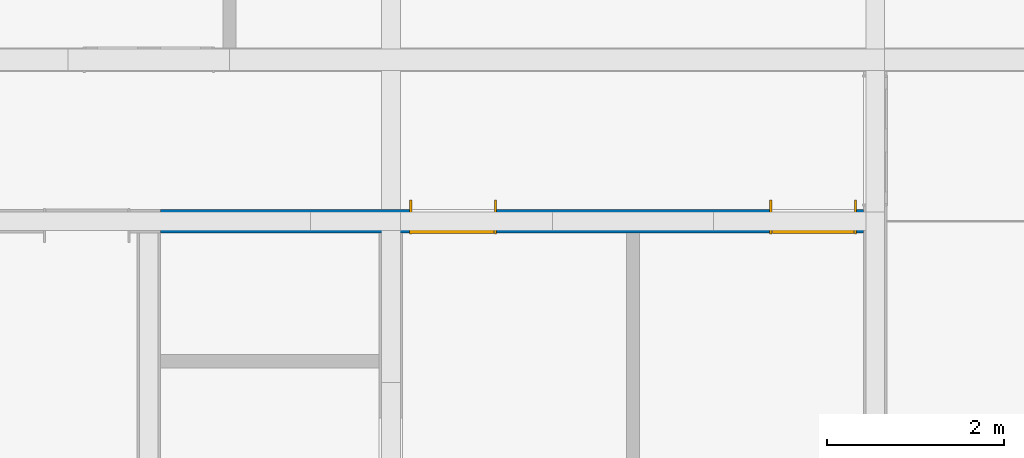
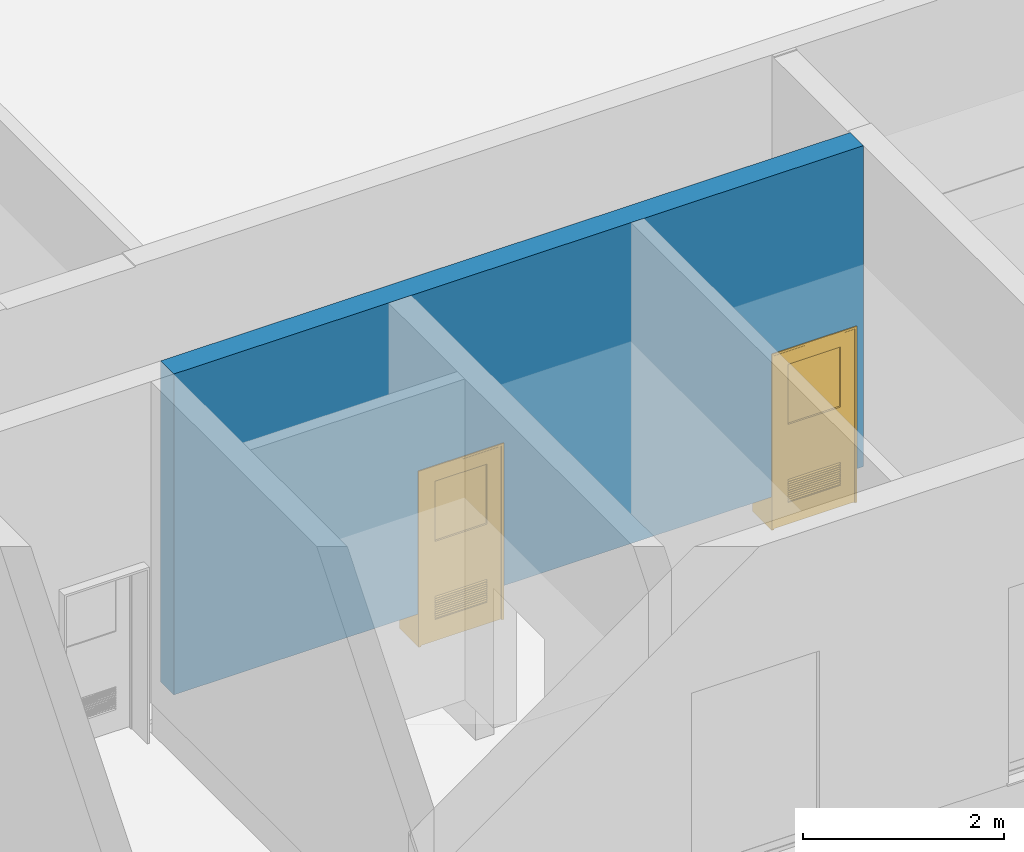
# One storey, part 16 of 22: 2 doors, 1 wall, 4 openings.
"""IFC4X3 building model written with IfcOpenShell, lengths in millimetres."""

from ifc_helpers import new_model, entity, si_unit, converted_unit, derived_unit, direction, frame, frame_2d, origin, place, context, subcontext, project, spatial, rectangle, extrude, faceted_brep, source, transform, mapped, material, layer, layer_set, constituent, constituent_set, type_object, type_shapes, element, fill, save


model = new_model("IFC4X3")

# Units and contexts
model_context = context("Model", 3, precision=0.01, world=origin(), true_north=direction((6.12303176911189e-17, 1.0)))
body_context = subcontext(model_context, "Body", "Model", "MODEL_VIEW")
ifc_project = project(units=[si_unit("LENGTHUNIT", "METRE", prefix="MILLI"), si_unit("AREAUNIT", "SQUARE_METRE"), si_unit("VOLUMEUNIT", "CUBIC_METRE"), converted_unit("PLANEANGLEUNIT", "DEGREE", entity("IfcPlaneAngleMeasure", 0.0174532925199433), si_unit("PLANEANGLEUNIT", "RADIAN"), dimensions=[0, 0, 0, 0, 0, 0, 0]), si_unit("MASSUNIT", "GRAM", prefix="KILO"), derived_unit("MASSDENSITYUNIT", [(si_unit("MASSUNIT", "GRAM", prefix="KILO"), 1), (si_unit("LENGTHUNIT", "METRE"), -3)]), derived_unit("IONCONCENTRATIONUNIT", [(si_unit("MASSUNIT", "GRAM", prefix="KILO"), 1), (si_unit("LENGTHUNIT", "METRE"), -3)]), derived_unit("MOMENTOFINERTIAUNIT", [(si_unit("LENGTHUNIT", "METRE"), 4)]), si_unit("TIMEUNIT", "SECOND"), si_unit("FREQUENCYUNIT", "HERTZ"), si_unit("THERMODYNAMICTEMPERATUREUNIT", "DEGREE_CELSIUS"), derived_unit("THERMALTRANSMITTANCEUNIT", [(si_unit("MASSUNIT", "GRAM", prefix="KILO"), 1), (si_unit("THERMODYNAMICTEMPERATUREUNIT", "KELVIN"), -1), (si_unit("TIMEUNIT", "SECOND"), -3)]), derived_unit("THERMALCONDUCTANCEUNIT", [(si_unit("MASSUNIT", "GRAM", prefix="KILO"), 1), (si_unit("THERMODYNAMICTEMPERATUREUNIT", "KELVIN"), -1), (si_unit("TIMEUNIT", "SECOND"), -3), (si_unit("LENGTHUNIT", "METRE"), 1)]), derived_unit("VOLUMETRICFLOWRATEUNIT", [(si_unit("LENGTHUNIT", "METRE", prefix="DECI"), 3), (si_unit("TIMEUNIT", "SECOND"), -1)]), derived_unit("MASSFLOWRATEUNIT", [(si_unit("MASSUNIT", "GRAM", prefix="KILO"), 1), (si_unit("TIMEUNIT", "SECOND"), -1)]), derived_unit("ROTATIONALFREQUENCYUNIT", [(si_unit("TIMEUNIT", "SECOND"), -1)]), si_unit("ELECTRICCURRENTUNIT", "AMPERE"), si_unit("ELECTRICVOLTAGEUNIT", "VOLT"), si_unit("POWERUNIT", "WATT"), si_unit("FORCEUNIT", "NEWTON", prefix="KILO"), si_unit("ILLUMINANCEUNIT", "LUX"), si_unit("LUMINOUSFLUXUNIT", "LUMEN"), si_unit("LUMINOUSINTENSITYUNIT", "CANDELA"), si_unit("ENERGYUNIT", "JOULE"), derived_unit("USERDEFINED", [(si_unit("MASSUNIT", "GRAM", prefix="KILO"), -1), (si_unit("LENGTHUNIT", "METRE"), -2), (si_unit("TIMEUNIT", "SECOND"), 3), (si_unit("LUMINOUSFLUXUNIT", "LUMEN"), 1)]), derived_unit("USERDEFINED", [(si_unit("MASSUNIT", "GRAM", prefix="KILO"), 1), (si_unit("TIMEUNIT", "SECOND"), -3), (si_unit("LENGTHUNIT", "METRE"), 3), (si_unit("ELECTRICCURRENTUNIT", "AMPERE"), -2)]), derived_unit("SOUNDPOWERUNIT", [(si_unit("MASSUNIT", "GRAM", prefix="KILO"), 1), (si_unit("TIMEUNIT", "SECOND"), -3), (si_unit("LENGTHUNIT", "METRE"), 2)]), derived_unit("SOUNDPRESSUREUNIT", [(si_unit("MASSUNIT", "GRAM", prefix="KILO"), 1), (si_unit("LENGTHUNIT", "METRE"), -1), (si_unit("TIMEUNIT", "SECOND"), -2)]), derived_unit("LINEARVELOCITYUNIT", [(si_unit("LENGTHUNIT", "METRE"), 1), (si_unit("TIMEUNIT", "SECOND"), -1)]), si_unit("PRESSUREUNIT", "PASCAL"), derived_unit("USERDEFINED", [(si_unit("MASSUNIT", "GRAM", prefix="KILO"), 1), (si_unit("LENGTHUNIT", "METRE"), -2), (si_unit("TIMEUNIT", "SECOND"), -2)]), derived_unit("LINEARFORCEUNIT", [(si_unit("MASSUNIT", "GRAM", prefix="KILO"), 1), (si_unit("TIMEUNIT", "SECOND"), -2)]), derived_unit("PLANARFORCEUNIT", [(si_unit("MASSUNIT", "GRAM", prefix="KILO"), 1), (si_unit("LENGTHUNIT", "METRE"), -1), (si_unit("TIMEUNIT", "SECOND"), -2)]), derived_unit("SPECIFICHEATCAPACITYUNIT", [(si_unit("THERMODYNAMICTEMPERATUREUNIT", "KELVIN"), -1), (si_unit("LENGTHUNIT", "METRE"), 2), (si_unit("TIMEUNIT", "SECOND"), -2)]), derived_unit("HEATFLUXDENSITYUNIT", [(si_unit("MASSUNIT", "GRAM", prefix="KILO"), 1), (si_unit("TIMEUNIT", "SECOND"), -3)]), derived_unit("HEATINGVALUEUNIT", [(si_unit("LENGTHUNIT", "METRE"), 2), (si_unit("TIMEUNIT", "SECOND"), -2)]), derived_unit("VAPORPERMEABILITYUNIT", [(si_unit("LENGTHUNIT", "METRE"), -1), (si_unit("TIMEUNIT", "SECOND"), 1)]), derived_unit("DYNAMICVISCOSITYUNIT", [(si_unit("MASSUNIT", "GRAM", prefix="KILO"), 1), (si_unit("TIMEUNIT", "SECOND"), -1), (si_unit("LENGTHUNIT", "METRE"), -1)]), derived_unit("THERMALEXPANSIONCOEFFICIENTUNIT", [(si_unit("THERMODYNAMICTEMPERATUREUNIT", "KELVIN"), -1)]), derived_unit("MODULUSOFELASTICITYUNIT", [(si_unit("MASSUNIT", "GRAM", prefix="KILO"), 1), (si_unit("LENGTHUNIT", "METRE"), -1), (si_unit("TIMEUNIT", "SECOND"), -2)]), derived_unit("ISOTHERMALMOISTURECAPACITYUNIT", [(si_unit("MASSUNIT", "GRAM", prefix="KILO"), -1), (si_unit("LENGTHUNIT", "METRE"), 3)]), derived_unit("MOISTUREDIFFUSIVITYUNIT", [(si_unit("TIMEUNIT", "SECOND"), -1), (si_unit("LENGTHUNIT", "METRE"), 2)]), derived_unit("AREADENSITYUNIT", [(si_unit("MASSUNIT", "GRAM", prefix="KILO"), 1), (si_unit("LENGTHUNIT", "METRE"), 2)]), derived_unit("MASSPERLENGTHUNIT", [(si_unit("MASSUNIT", "GRAM", prefix="KILO"), 1), (si_unit("LENGTHUNIT", "METRE"), -1)]), derived_unit("THERMALRESISTANCEUNIT", [(si_unit("MASSUNIT", "GRAM", prefix="KILO"), -1), (si_unit("TIMEUNIT", "SECOND"), 3), (si_unit("THERMODYNAMICTEMPERATUREUNIT", "KELVIN"), 1)]), derived_unit("ACCELERATIONUNIT", [(si_unit("LENGTHUNIT", "METRE"), 1), (si_unit("TIMEUNIT", "SECOND"), -2)]), derived_unit("ANGULARVELOCITYUNIT", [(si_unit("TIMEUNIT", "SECOND"), -1), (si_unit("PLANEANGLEUNIT", "RADIAN"), 1)]), derived_unit("LINEARSTIFFNESSUNIT", [(si_unit("MASSUNIT", "GRAM", prefix="KILO"), 1), (si_unit("TIMEUNIT", "SECOND"), -2)]), derived_unit("WARPINGCONSTANTUNIT", [(si_unit("LENGTHUNIT", "METRE"), 6)]), derived_unit("LINEARMOMENTUNIT", [(si_unit("MASSUNIT", "GRAM", prefix="KILO"), 1), (si_unit("LENGTHUNIT", "METRE"), 1), (si_unit("TIMEUNIT", "SECOND"), -2)]), derived_unit("TORQUEUNIT", [(si_unit("MASSUNIT", "GRAM", prefix="KILO"), 1), (si_unit("LENGTHUNIT", "METRE"), 2), (si_unit("TIMEUNIT", "SECOND"), -2)])], contexts=[model_context])

# Site, building, storey
site_placement = place(None, origin())
site = spatial("IfcSite", under=ifc_project, at=site_placement, Name="Default", CompositionType="ELEMENT")
building_placement = place(site_placement, origin())
building = spatial("IfcBuilding", under=site, at=building_placement, Name="事務所ビル", CompositionType="ELEMENT")
storey_placement = place(building_placement, origin())
storey = spatial("IfcBuildingStorey", under=building, at=storey_placement, Name="1FL", CompositionType="ELEMENT", Elevation=0.0)

# Wall, openings, doors
ifc_material_1 = material(Name="せっこうボード", Category="一般")
ifc_layer_1 = layer(ifc_material_1, 15.0, Name="せっこうボード", Category="一般")
ifc_material_2 = material(Name="合板", Category="一般")
ifc_layer_2 = layer(ifc_material_2, 12.0, Name="合板", Category="一般")
ifc_material_3 = material(Name="天然木材", Category="一般")
ifc_layer_3 = layer(ifc_material_3, 210.0, Name="天然木材", Category="一般")
ifc_layer_4 = layer(ifc_material_2, 12.0, Name="合板", Category="一般")
ifc_layer_5 = layer(ifc_material_1, 15.0, Name="せっこうボード", Category="一般")
ifc_layer_set = layer_set([ifc_layer_1, ifc_layer_2, ifc_layer_3, ifc_layer_4, ifc_layer_5], Name="標準壁:GB-R15_構造用合板12_木210_構造用合板12_GB-R15")
wall_type = type_object("IfcWallType", Name="標準壁:GB-R15_構造用合板12_木210_構造用合板12_GB-R15", PredefinedType="STANDARD", material=ifc_layer_set)
wall_placement = place(storey_placement, frame((30162.0, 5460.0, 400.0)))
wall = element("IfcWall", 1, at=wall_placement, inside=storey, type_object=wall_type, material=ifc_layer_set, Name="標準壁:GB-R15_構造用合板12_木210_構造用合板12_GB-R15", ObjectType="標準壁:GB-R15_構造用合板12_木210_構造用合板12_GB-R15", PredefinedType="NOTDEFINED", context=body_context, shape_type="SweptSolid", body=[
    extrude(rectangle(XDim=7925.99999999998, YDim=264.000000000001, at=frame_2d((3962.99999999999, -2.55795384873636e-13), x_axis=(-1.0, 0.0))), origin(), (0.0, 0.0, 1.0), 3900.0),
])
opening_1_placement = place(wall_placement, frame((-30162.0, -5460.0, 3900.0)))
element("IfcOpeningElement", 2, at=opening_1_placement, cuts=wall, Name="標準壁:GB-R15_構造用合板12_木210_構造用合板12_GB-R15", PredefinedType="OPENING", context=body_context, shape_type="SweptSolid", body=[
    extrude(rectangle(XDim=2140.0, YDim=979.999999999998, at=frame_2d((2.18847162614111e-12, 0.0), x_axis=(0.0, 1.0))), frame((33460.0, 4068.0, 1070.0), z_axis=(0.0, 1.0, 0.0), x_axis=(1.0, 0.0, 0.0)), (0.0, 0.0, 1.0), 3048.0),
])
opening_2_placement = place(wall_placement, frame((-30162.0, -5460.0, 3900.0)))
element("IfcOpeningElement", 3, at=opening_2_placement, cuts=wall, Name="標準壁:GB-R15_構造用合板12_木210_構造用合板12_GB-R15", PredefinedType="OPENING", context=body_context, shape_type="SweptSolid", body=[
    extrude(rectangle(XDim=2140.0, YDim=979.999999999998, at=frame_2d((0.0, -2.18847162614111e-12), x_axis=(1.0, 0.0))), frame((37520.0, 4068.0, 1070.0), z_axis=(0.0, 1.0, 0.0), x_axis=(0.0, 0.0, -1.0)), (0.0, 0.0, 1.0), 3048.0),
])
opening_3_placement = place(wall_placement, frame((3788.0, 132.0, -400.0)))
opening_3 = element("IfcOpeningElement", 4, at=opening_3_placement, cuts=wall, Name="鋼製_一般枠_片開き 1:鋼製_一般枠_片開き 1:1", PredefinedType="OPENING", context=body_context, shape_type="SweptSolid", body=[
    extrude(rectangle(XDim=2140.0, YDim=979.999999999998, at=frame_2d((1070.0, 489.999999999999), x_axis=(-1.0, 0.0))), frame((0.0, 0.0, 0.0), z_axis=(0.0, -1.0, 0.0), x_axis=(0.0, 0.0, 1.0)), (0.0, 0.0, 1.0), 264.0),
])
opening_4_placement = place(wall_placement, frame((7848.0, 132.0, -400.0)))
opening_4 = element("IfcOpeningElement", 5, at=opening_4_placement, cuts=wall, Name="鋼製_一般枠_片開き 1:鋼製_一般枠_片開き 1:1", PredefinedType="OPENING", context=body_context, shape_type="SweptSolid", body=[
    extrude(rectangle(XDim=2140.0, YDim=979.999999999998, at=frame_2d((1070.0, 489.999999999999), x_axis=(-1.0, 0.0))), frame((0.0, 0.0, 0.0), z_axis=(0.0, -1.0, 0.0), x_axis=(0.0, 0.0, 1.0)), (0.0, 0.0, 1.0), 264.0),
])
ifc_material_4 = material(Name="金属 - アルミニウム", Category="未設定")
ifc_constituent_1 = constituent(ifc_material_4, Name="金属 - アルミニウム", Category="未設定")
ifc_material_5 = material(Name="塗装 - 白", Category="未設定")
ifc_constituent_2 = constituent(ifc_material_5, Name="塗装 - 白", Category="未設定")
ifc_material_6 = material(Name="ガラス", Category="ガラス")
ifc_constituent_3 = constituent(ifc_material_6, Name="ガラス", Category="ガラス")
ifc_constituent_set_1 = constituent_set(constituents=[ifc_constituent_1, ifc_constituent_2, ifc_constituent_3])
ifc_constituent_4 = constituent(ifc_material_4, Name="金属 - アルミニウム", Category="未設定")
ifc_constituent_5 = constituent(ifc_material_5, Name="パネル", Category="未設定")
ifc_constituent_6 = constituent(ifc_material_6, Name="ガラス", Category="ガラス")
ifc_constituent_7 = constituent(ifc_material_4, Name="フレーム/マリオン", Category="未設定")
ifc_constituent_set_2 = constituent_set(constituents=[ifc_constituent_4, ifc_constituent_5, ifc_constituent_6, ifc_constituent_7])
door_type_1 = type_object("IfcDoorType", Name="鋼製_一般枠_片開き 1:鋼製_一般枠_片開き 1", OperationType="SINGLE_SWING_LEFT", ParameterTakesPrecedence=False, PredefinedType="DOOR", material=ifc_constituent_set_2)
shared_shape_1 = source(origin(), body_context, "Body", "Brep", [
    faceted_brep([(790.0, 269.0, 493.333333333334), (790.0, 269.0, 498.333333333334), (790.0, 239.0, 513.333333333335), (790.0, 229.0, 508.333333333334), (790.0, 229.0, 503.333333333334), (790.0, 239.0, 508.333333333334), (190.0, 269.0, 493.333333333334), (190.0, 239.0, 508.333333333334), (190.0, 229.0, 503.333333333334), (190.0, 229.0, 508.333333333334), (190.0, 239.0, 513.333333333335), (190.0, 269.0, 498.333333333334)], [[[0, 1, 2, 3, 4, 5]], [[6, 7, 8, 9, 10, 11]], [[5, 7, 6, 0]], [[4, 8, 7, 5]], [[3, 9, 8, 4]], [[2, 10, 9, 3]], [[1, 11, 10, 2]], [[0, 6, 11, 1]]]),
    faceted_brep([(790.0, 269.0, 466.666666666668), (790.0, 269.0, 471.666666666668), (790.0, 239.0, 486.666666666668), (790.0, 229.0, 481.666666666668), (790.0, 229.0, 476.666666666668), (790.0, 239.0, 481.666666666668), (190.0, 269.0, 466.666666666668), (190.0, 239.0, 481.666666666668), (190.0, 229.0, 476.666666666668), (190.0, 229.0, 481.666666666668), (190.0, 239.0, 486.666666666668), (190.0, 269.0, 471.666666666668)], [[[0, 1, 2, 3, 4, 5]], [[6, 7, 8, 9, 10, 11]], [[5, 7, 6, 0]], [[4, 8, 7, 5]], [[3, 9, 8, 4]], [[2, 10, 9, 3]], [[1, 11, 10, 2]], [[0, 6, 11, 1]]]),
    faceted_brep([(790.0, 269.0, 440.0), (790.0, 269.0, 445.0), (790.0, 239.0, 460.0), (790.0, 229.0, 455.0), (790.0, 229.0, 450.0), (790.0, 239.0, 455.0), (190.0, 269.0, 440.0), (190.0, 239.0, 455.0), (190.0, 229.0, 450.0), (190.0, 229.0, 455.0), (190.0, 239.0, 460.0), (190.0, 269.0, 445.0)], [[[0, 1, 2, 3, 4, 5]], [[6, 7, 8, 9, 10, 11]], [[5, 7, 6, 0]], [[4, 8, 7, 5]], [[3, 9, 8, 4]], [[2, 10, 9, 3]], [[1, 11, 10, 2]], [[0, 6, 11, 1]]]),
    faceted_brep([(790.0, 269.0, 413.333333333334), (790.0, 269.0, 418.333333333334), (790.0, 239.0, 433.333333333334), (790.0, 229.0, 428.333333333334), (790.0, 229.0, 423.333333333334), (790.0, 239.0, 428.333333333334), (190.0, 269.0, 413.333333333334), (190.0, 239.0, 428.333333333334), (190.0, 229.0, 423.333333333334), (190.0, 229.0, 428.333333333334), (190.0, 239.0, 433.333333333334), (190.0, 269.0, 418.333333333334)], [[[0, 1, 2, 3, 4, 5]], [[6, 7, 8, 9, 10, 11]], [[5, 7, 6, 0]], [[4, 8, 7, 5]], [[3, 9, 8, 4]], [[2, 10, 9, 3]], [[1, 11, 10, 2]], [[0, 6, 11, 1]]]),
    faceted_brep([(790.0, 269.0, 386.666666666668), (790.0, 269.0, 391.666666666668), (790.0, 239.0, 406.666666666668), (790.0, 229.0, 401.666666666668), (790.0, 229.0, 396.666666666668), (790.0, 239.0, 401.666666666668), (190.0, 269.0, 386.666666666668), (190.0, 239.0, 401.666666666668), (190.0, 229.0, 396.666666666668), (190.0, 229.0, 401.666666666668), (190.0, 239.0, 406.666666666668), (190.0, 269.0, 391.666666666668)], [[[0, 1, 2, 3, 4, 5]], [[6, 7, 8, 9, 10, 11]], [[5, 7, 6, 0]], [[4, 8, 7, 5]], [[3, 9, 8, 4]], [[2, 10, 9, 3]], [[1, 11, 10, 2]], [[0, 6, 11, 1]]]),
    faceted_brep([(790.0, 269.0, 360.0), (790.0, 269.0, 365.0), (790.0, 239.0, 380.0), (790.0, 229.0, 375.0), (790.0, 229.0, 370.0), (790.0, 239.0, 375.0), (190.0, 269.0, 360.0), (190.0, 239.0, 375.0), (190.0, 229.0, 370.0), (190.0, 229.0, 375.0), (190.0, 239.0, 380.0), (190.0, 269.0, 365.0)], [[[0, 1, 2, 3, 4, 5]], [[6, 7, 8, 9, 10, 11]], [[5, 7, 6, 0]], [[4, 8, 7, 5]], [[3, 9, 8, 4]], [[2, 10, 9, 3]], [[1, 11, 10, 2]], [[0, 6, 11, 1]]]),
    faceted_brep([(790.0, 269.0, 333.333333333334), (790.0, 269.0, 338.333333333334), (790.0, 239.0, 353.333333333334), (790.0, 229.0, 348.333333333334), (790.0, 229.0, 343.333333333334), (790.0, 239.0, 348.333333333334), (190.0, 269.0, 333.333333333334), (190.0, 239.0, 348.333333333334), (190.0, 229.0, 343.333333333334), (190.0, 229.0, 348.333333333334), (190.0, 239.0, 353.333333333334), (190.0, 269.0, 338.333333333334)], [[[0, 1, 2, 3, 4, 5]], [[6, 7, 8, 9, 10, 11]], [[5, 7, 6, 0]], [[4, 8, 7, 5]], [[3, 9, 8, 4]], [[2, 10, 9, 3]], [[1, 11, 10, 2]], [[0, 6, 11, 1]]]),
    faceted_brep([(790.0, 269.0, 306.666666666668), (790.0, 269.0, 311.666666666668), (790.0, 239.0, 326.666666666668), (790.0, 229.0, 321.666666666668), (790.0, 229.0, 316.666666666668), (790.0, 239.0, 321.666666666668), (190.0, 269.0, 306.666666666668), (190.0, 239.0, 321.666666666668), (190.0, 229.0, 316.666666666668), (190.0, 229.0, 321.666666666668), (190.0, 239.0, 326.666666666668), (190.0, 269.0, 311.666666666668)], [[[0, 1, 2, 3, 4, 5]], [[6, 7, 8, 9, 10, 11]], [[5, 7, 6, 0]], [[4, 8, 7, 5]], [[3, 9, 8, 4]], [[2, 10, 9, 3]], [[1, 11, 10, 2]], [[0, 6, 11, 1]]]),
    faceted_brep([(790.0, 269.0, 520.0), (790.0, 269.0, 525.0), (790.0, 239.0, 540.0), (790.0, 229.0, 535.0), (790.0, 229.0, 530.0), (790.0, 239.0, 535.0), (190.0, 269.0, 520.0), (190.0, 239.0, 535.0), (190.0, 229.0, 530.0), (190.0, 229.0, 535.0), (190.0, 239.0, 540.0), (190.0, 269.0, 525.0)], [[[0, 1, 2, 3, 4, 5]], [[6, 7, 8, 9, 10, 11]], [[5, 7, 6, 0]], [[4, 8, 7, 5]], [[3, 9, 8, 4]], [[2, 10, 9, 3]], [[1, 11, 10, 2]], [[0, 6, 11, 1]]]),
    faceted_brep([(790.0, 269.0, 280.0), (790.0, 269.0, 285.0), (790.0, 239.0, 300.0), (790.0, 229.0, 295.0), (790.0, 229.0, 290.0), (790.0, 239.0, 295.0), (190.0, 269.0, 280.0), (190.0, 239.0, 295.0), (190.0, 229.0, 290.0), (190.0, 229.0, 295.0), (190.0, 239.0, 300.0), (190.0, 269.0, 285.0)], [[[0, 1, 2, 3, 4, 5]], [[6, 7, 8, 9, 10, 11]], [[5, 7, 6, 0]], [[4, 8, 7, 5]], [[3, 9, 8, 4]], [[2, 10, 9, 3]], [[1, 11, 10, 2]], [[0, 6, 11, 1]]]),
    faceted_brep([(800.0, 269.0, 260.0), (180.0, 269.0, 260.0), (180.0, 269.0, 560.0), (800.0, 269.0, 560.0), (790.0, 269.0, 270.0), (790.0, 269.0, 550.0), (190.0, 269.0, 550.0), (190.0, 269.0, 270.0), (800.0, 229.0, 260.0), (800.0, 229.0, 560.0), (180.0, 229.0, 560.0), (180.0, 229.0, 260.0), (790.0, 229.0, 270.0), (190.0, 229.0, 270.0), (190.0, 229.0, 550.0), (790.0, 229.0, 550.0)], [[[0, 1, 2, 3], [4, 5, 6, 7]], [[8, 9, 10, 11], [12, 13, 14, 15]], [[3, 9, 8, 0]], [[2, 10, 9, 3]], [[1, 11, 10, 2]], [[0, 8, 11, 1]], [[7, 13, 12, 4]], [[6, 14, 13, 7]], [[5, 15, 14, 6]], [[4, 12, 15, 5]]]),
    faceted_brep([(800.0, 229.0, 1210.0), (800.0, 229.0, 1960.0), (180.0, 229.0, 1960.0), (180.0, 229.0, 1210.0), (790.0, 229.0, 1220.0), (190.0, 229.0, 1220.0), (190.0, 229.0, 1950.0), (790.0, 229.0, 1950.0), (800.0, 269.0, 1210.0), (180.0, 269.0, 1210.0), (180.0, 269.0, 1960.0), (800.0, 269.0, 1960.0), (790.0, 269.0, 1220.0), (790.0, 269.0, 1950.0), (190.0, 269.0, 1950.0), (190.0, 269.0, 1220.0)], [[[0, 1, 2, 3], [4, 5, 6, 7]], [[8, 9, 10, 11], [12, 13, 14, 15]], [[1, 0, 8, 11]], [[2, 1, 11, 10]], [[3, 2, 10, 9]], [[0, 3, 9, 8]], [[5, 4, 12, 15]], [[6, 5, 15, 14]], [[7, 6, 14, 13]], [[4, 7, 13, 12]]]),
    faceted_brep([(800.0, 244.0, 1210.0), (800.0, 244.0, 1960.0), (180.0, 244.0, 1960.0), (180.0, 244.0, 1210.0), (800.0, 249.0, 1210.0), (180.0, 249.0, 1210.0), (180.0, 249.0, 1960.0), (800.0, 249.0, 1960.0)], [[[0, 1, 2, 3]], [[4, 5, 6, 7]], [[1, 0, 4, 7]], [[2, 1, 7, 6]], [[3, 2, 6, 5]], [[0, 3, 5, 4]]]),
    faceted_brep([(950.0, 229.0, 10.0), (950.0, 229.0, 2110.0), (30.0, 229.0, 2110.0), (30.0, 229.0, 10.0), (800.0, 229.0, 260.0), (180.0, 229.0, 260.0), (180.0, 229.0, 560.0), (800.0, 229.0, 560.0), (800.0, 229.0, 1210.0), (180.0, 229.0, 1210.0), (180.0, 229.0, 1960.0), (800.0, 229.0, 1960.0), (950.0, 269.0, 10.0), (30.0, 269.0, 10.0), (30.0, 269.0, 2110.0), (950.0, 269.0, 2110.0), (800.0, 269.0, 260.0), (800.0, 269.0, 560.0), (180.0, 269.0, 560.0), (180.0, 269.0, 260.0), (800.0, 269.0, 1210.0), (800.0, 269.0, 1960.0), (180.0, 269.0, 1960.0), (180.0, 269.0, 1210.0)], [[[0, 1, 2, 3], [4, 5, 6, 7], [8, 9, 10, 11]], [[12, 13, 14, 15], [16, 17, 18, 19], [20, 21, 22, 23]], [[1, 0, 12, 15]], [[2, 1, 15, 14]], [[3, 2, 14, 13]], [[0, 3, 13, 12]], [[5, 4, 16, 19]], [[6, 5, 19, 18]], [[7, 6, 18, 17]], [[4, 7, 17, 16]], [[9, 8, 20, 23]], [[10, 9, 23, 22]], [[11, 10, 22, 21]], [[8, 11, 21, 20]]]),
    faceted_brep([(955.0, 274.0, 0.0), (980.0, 274.0, 0.0), (980.0, -110.0, 0.0), (955.0, -110.0, 0.0), (955.0, 194.0, 0.0), (940.0, 194.0, 0.0), (940.0, 224.0, 0.0), (955.0, 224.0, 0.0), (955.0, 274.0, 2115.0), (25.0, 274.0, 2115.0), (25.0, 274.0, 0.0), (0.0, 274.0, 0.0), (0.0, 274.0, 2140.0), (980.0, 274.0, 2140.0), (980.0, -110.0, 2140.0), (0.0, -110.0, 2140.0), (0.0, -110.0, 0.0), (25.0, -110.0, 0.0), (25.0, -110.0, 2115.0), (955.0, -110.0, 2115.0), (955.0, 194.0, 2115.0), (25.0, 194.0, 2115.0), (25.0, 194.0, 0.0), (40.0, 194.0, 0.0), (40.0, 194.0, 2100.0), (940.0, 194.0, 2100.0), (940.0, 224.0, 2100.0), (40.0, 224.0, 2100.0), (40.0, 224.0, 0.0), (25.0, 224.0, 0.0), (25.0, 224.0, 2115.0), (955.0, 224.0, 2115.0)], [[[0, 1, 2, 3, 4, 5, 6, 7]], [[1, 0, 8, 9, 10, 11, 12, 13]], [[2, 1, 13, 14]], [[3, 2, 14, 15, 16, 17, 18, 19]], [[4, 3, 19, 20]], [[5, 4, 20, 21, 22, 23, 24, 25]], [[6, 5, 25, 26]], [[7, 6, 26, 27, 28, 29, 30, 31]], [[0, 7, 31, 8]], [[14, 13, 12, 15]], [[20, 19, 18, 21]], [[26, 25, 24, 27]], [[8, 31, 30, 9]], [[10, 29, 28, 23, 22, 17, 16, 11]], [[15, 12, 11, 16]], [[21, 18, 17, 22]], [[27, 24, 23, 28]], [[9, 30, 29, 10]]]),
])
type_shapes(door_type_1, [shared_shape_1])
door_1_placement = place(opening_4_placement, frame((0.0, 0.0, 0.0), z_axis=(0.0, 0.0, 1.0), x_axis=(-1.0, 0.0, 0.0)))
door_1 = element("IfcDoor", 6, at=door_1_placement, inside=storey, type_object=door_type_1, material=ifc_constituent_set_1, Name="鋼製_一般枠_片開き 1:鋼製_一般枠_片開き 1", ObjectType="鋼製_一般枠_片開き 1:鋼製_一般枠_片開き 1", OperationType="SINGLE_SWING_LEFT", OverallHeight=2140.0, OverallWidth=979.999999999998, PredefinedType="DOOR", context=body_context, shape_type="MappedRepresentation", body=[
    mapped(shared_shape_1, transform((0.0, 0.0, 0.0), scale=1.0)),
])
fill(opening_4, door_1)
ifc_constituent_8 = constituent(ifc_material_4, Name="金属 - アルミニウム", Category="未設定")
ifc_constituent_9 = constituent(ifc_material_5, Name="塗装 - 白", Category="未設定")
ifc_constituent_10 = constituent(ifc_material_6, Name="ガラス", Category="ガラス")
ifc_constituent_set_3 = constituent_set(constituents=[ifc_constituent_8, ifc_constituent_9, ifc_constituent_10])
ifc_constituent_11 = constituent(ifc_material_4, Name="金属 - アルミニウム", Category="未設定")
ifc_constituent_12 = constituent(ifc_material_5, Name="パネル", Category="未設定")
ifc_constituent_13 = constituent(ifc_material_6, Name="ガラス", Category="ガラス")
ifc_constituent_14 = constituent(ifc_material_4, Name="フレーム/マリオン", Category="未設定")
ifc_constituent_set_4 = constituent_set(constituents=[ifc_constituent_11, ifc_constituent_12, ifc_constituent_13, ifc_constituent_14])
door_type_2 = type_object("IfcDoorType", Name="鋼製_一般枠_片開き 1:鋼製_一般枠_片開き 1", OperationType="SINGLE_SWING_RIGHT", ParameterTakesPrecedence=False, PredefinedType="DOOR", material=ifc_constituent_set_4)
shared_shape_2 = source(origin(), body_context, "Body", "Brep", [
    faceted_brep([(190.0, 269.0, 493.333333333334), (190.0, 239.0, 508.333333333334), (190.0, 229.0, 503.333333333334), (190.0, 229.0, 508.333333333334), (190.0, 239.0, 513.333333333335), (190.0, 269.0, 498.333333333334), (790.0, 269.0, 493.333333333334), (790.0, 269.0, 498.333333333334), (790.0, 239.0, 513.333333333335), (790.0, 229.0, 508.333333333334), (790.0, 229.0, 503.333333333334), (790.0, 239.0, 508.333333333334)], [[[0, 1, 2, 3, 4, 5]], [[6, 7, 8, 9, 10, 11]], [[1, 0, 6, 11]], [[2, 1, 11, 10]], [[3, 2, 10, 9]], [[4, 3, 9, 8]], [[5, 4, 8, 7]], [[0, 5, 7, 6]]]),
    faceted_brep([(190.0, 269.0, 466.666666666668), (190.0, 239.0, 481.666666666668), (190.0, 229.0, 476.666666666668), (190.0, 229.0, 481.666666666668), (190.0, 239.0, 486.666666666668), (190.0, 269.0, 471.666666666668), (790.0, 269.0, 466.666666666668), (790.0, 269.0, 471.666666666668), (790.0, 239.0, 486.666666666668), (790.0, 229.0, 481.666666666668), (790.0, 229.0, 476.666666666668), (790.0, 239.0, 481.666666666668)], [[[0, 1, 2, 3, 4, 5]], [[6, 7, 8, 9, 10, 11]], [[1, 0, 6, 11]], [[2, 1, 11, 10]], [[3, 2, 10, 9]], [[4, 3, 9, 8]], [[5, 4, 8, 7]], [[0, 5, 7, 6]]]),
    faceted_brep([(190.0, 269.0, 440.0), (190.0, 239.0, 455.0), (190.0, 229.0, 450.0), (190.0, 229.0, 455.0), (190.0, 239.0, 460.0), (190.0, 269.0, 445.0), (790.0, 269.0, 440.0), (790.0, 269.0, 445.0), (790.0, 239.0, 460.0), (790.0, 229.0, 455.0), (790.0, 229.0, 450.0), (790.0, 239.0, 455.0)], [[[0, 1, 2, 3, 4, 5]], [[6, 7, 8, 9, 10, 11]], [[1, 0, 6, 11]], [[2, 1, 11, 10]], [[3, 2, 10, 9]], [[4, 3, 9, 8]], [[5, 4, 8, 7]], [[0, 5, 7, 6]]]),
    faceted_brep([(190.0, 269.0, 413.333333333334), (190.0, 239.0, 428.333333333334), (190.0, 229.0, 423.333333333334), (190.0, 229.0, 428.333333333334), (190.0, 239.0, 433.333333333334), (190.0, 269.0, 418.333333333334), (790.0, 269.0, 413.333333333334), (790.0, 269.0, 418.333333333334), (790.0, 239.0, 433.333333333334), (790.0, 229.0, 428.333333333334), (790.0, 229.0, 423.333333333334), (790.0, 239.0, 428.333333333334)], [[[0, 1, 2, 3, 4, 5]], [[6, 7, 8, 9, 10, 11]], [[1, 0, 6, 11]], [[2, 1, 11, 10]], [[3, 2, 10, 9]], [[4, 3, 9, 8]], [[5, 4, 8, 7]], [[0, 5, 7, 6]]]),
    faceted_brep([(190.0, 269.0, 386.666666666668), (190.0, 239.0, 401.666666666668), (190.0, 229.0, 396.666666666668), (190.0, 229.0, 401.666666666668), (190.0, 239.0, 406.666666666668), (190.0, 269.0, 391.666666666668), (790.0, 269.0, 386.666666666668), (790.0, 269.0, 391.666666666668), (790.0, 239.0, 406.666666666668), (790.0, 229.0, 401.666666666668), (790.0, 229.0, 396.666666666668), (790.0, 239.0, 401.666666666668)], [[[0, 1, 2, 3, 4, 5]], [[6, 7, 8, 9, 10, 11]], [[1, 0, 6, 11]], [[2, 1, 11, 10]], [[3, 2, 10, 9]], [[4, 3, 9, 8]], [[5, 4, 8, 7]], [[0, 5, 7, 6]]]),
    faceted_brep([(190.0, 269.0, 360.0), (190.0, 239.0, 375.0), (190.0, 229.0, 370.0), (190.0, 229.0, 375.0), (190.0, 239.0, 380.0), (190.0, 269.0, 365.0), (790.0, 269.0, 360.0), (790.0, 269.0, 365.0), (790.0, 239.0, 380.0), (790.0, 229.0, 375.0), (790.0, 229.0, 370.0), (790.0, 239.0, 375.0)], [[[0, 1, 2, 3, 4, 5]], [[6, 7, 8, 9, 10, 11]], [[1, 0, 6, 11]], [[2, 1, 11, 10]], [[3, 2, 10, 9]], [[4, 3, 9, 8]], [[5, 4, 8, 7]], [[0, 5, 7, 6]]]),
    faceted_brep([(190.0, 269.0, 333.333333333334), (190.0, 239.0, 348.333333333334), (190.0, 229.0, 343.333333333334), (190.0, 229.0, 348.333333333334), (190.0, 239.0, 353.333333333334), (190.0, 269.0, 338.333333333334), (790.0, 269.0, 333.333333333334), (790.0, 269.0, 338.333333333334), (790.0, 239.0, 353.333333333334), (790.0, 229.0, 348.333333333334), (790.0, 229.0, 343.333333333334), (790.0, 239.0, 348.333333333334)], [[[0, 1, 2, 3, 4, 5]], [[6, 7, 8, 9, 10, 11]], [[1, 0, 6, 11]], [[2, 1, 11, 10]], [[3, 2, 10, 9]], [[4, 3, 9, 8]], [[5, 4, 8, 7]], [[0, 5, 7, 6]]]),
    faceted_brep([(190.0, 269.0, 306.666666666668), (190.0, 239.0, 321.666666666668), (190.0, 229.0, 316.666666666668), (190.0, 229.0, 321.666666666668), (190.0, 239.0, 326.666666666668), (190.0, 269.0, 311.666666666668), (790.0, 269.0, 306.666666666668), (790.0, 269.0, 311.666666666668), (790.0, 239.0, 326.666666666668), (790.0, 229.0, 321.666666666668), (790.0, 229.0, 316.666666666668), (790.0, 239.0, 321.666666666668)], [[[0, 1, 2, 3, 4, 5]], [[6, 7, 8, 9, 10, 11]], [[1, 0, 6, 11]], [[2, 1, 11, 10]], [[3, 2, 10, 9]], [[4, 3, 9, 8]], [[5, 4, 8, 7]], [[0, 5, 7, 6]]]),
    faceted_brep([(190.0, 269.0, 520.0), (190.0, 239.0, 535.0), (190.0, 229.0, 530.0), (190.0, 229.0, 535.0), (190.0, 239.0, 540.0), (190.0, 269.0, 525.0), (790.0, 269.0, 520.0), (790.0, 269.0, 525.0), (790.0, 239.0, 540.0), (790.0, 229.0, 535.0), (790.0, 229.0, 530.0), (790.0, 239.0, 535.0)], [[[0, 1, 2, 3, 4, 5]], [[6, 7, 8, 9, 10, 11]], [[1, 0, 6, 11]], [[2, 1, 11, 10]], [[3, 2, 10, 9]], [[4, 3, 9, 8]], [[5, 4, 8, 7]], [[0, 5, 7, 6]]]),
    faceted_brep([(190.0, 269.0, 280.0), (190.0, 239.0, 295.0), (190.0, 229.0, 290.0), (190.0, 229.0, 295.0), (190.0, 239.0, 300.0), (190.0, 269.0, 285.0), (790.0, 269.0, 280.0), (790.0, 269.0, 285.0), (790.0, 239.0, 300.0), (790.0, 229.0, 295.0), (790.0, 229.0, 290.0), (790.0, 239.0, 295.0)], [[[0, 1, 2, 3, 4, 5]], [[6, 7, 8, 9, 10, 11]], [[1, 0, 6, 11]], [[2, 1, 11, 10]], [[3, 2, 10, 9]], [[4, 3, 9, 8]], [[5, 4, 8, 7]], [[0, 5, 7, 6]]]),
    faceted_brep([(180.0, 269.0, 260.0), (180.0, 269.0, 560.0), (800.0, 269.0, 560.0), (800.0, 269.0, 260.0), (190.0, 269.0, 270.0), (790.0, 269.0, 270.0), (790.0, 269.0, 550.0), (190.0, 269.0, 550.0), (180.0, 229.0, 260.0), (800.0, 229.0, 260.0), (800.0, 229.0, 560.0), (180.0, 229.0, 560.0), (190.0, 229.0, 270.0), (190.0, 229.0, 550.0), (790.0, 229.0, 550.0), (790.0, 229.0, 270.0)], [[[0, 1, 2, 3], [4, 5, 6, 7]], [[8, 9, 10, 11], [12, 13, 14, 15]], [[1, 0, 8, 11]], [[2, 1, 11, 10]], [[3, 2, 10, 9]], [[0, 3, 9, 8]], [[5, 4, 12, 15]], [[6, 5, 15, 14]], [[7, 6, 14, 13]], [[4, 7, 13, 12]]]),
    faceted_brep([(180.0, 229.0, 1210.0), (800.0, 229.0, 1210.0), (800.0, 229.0, 1960.0), (180.0, 229.0, 1960.0), (190.0, 229.0, 1220.0), (190.0, 229.0, 1950.0), (790.0, 229.0, 1950.0), (790.0, 229.0, 1220.0), (180.0, 269.0, 1210.0), (180.0, 269.0, 1960.0), (800.0, 269.0, 1960.0), (800.0, 269.0, 1210.0), (190.0, 269.0, 1220.0), (790.0, 269.0, 1220.0), (790.0, 269.0, 1950.0), (190.0, 269.0, 1950.0)], [[[0, 1, 2, 3], [4, 5, 6, 7]], [[8, 9, 10, 11], [12, 13, 14, 15]], [[3, 9, 8, 0]], [[2, 10, 9, 3]], [[1, 11, 10, 2]], [[0, 8, 11, 1]], [[7, 13, 12, 4]], [[6, 14, 13, 7]], [[5, 15, 14, 6]], [[4, 12, 15, 5]]]),
    faceted_brep([(180.0, 244.0, 1210.0), (800.0, 244.0, 1210.0), (800.0, 244.0, 1960.0), (180.0, 244.0, 1960.0), (180.0, 249.0, 1210.0), (180.0, 249.0, 1960.0), (800.0, 249.0, 1960.0), (800.0, 249.0, 1210.0)], [[[0, 1, 2, 3]], [[4, 5, 6, 7]], [[3, 5, 4, 0]], [[2, 6, 5, 3]], [[1, 7, 6, 2]], [[0, 4, 7, 1]]]),
    faceted_brep([(30.0, 229.0, 10.0), (950.0, 229.0, 10.0), (950.0, 229.0, 2110.0), (30.0, 229.0, 2110.0), (180.0, 229.0, 260.0), (180.0, 229.0, 560.0), (800.0, 229.0, 560.0), (800.0, 229.0, 260.0), (180.0, 229.0, 1210.0), (180.0, 229.0, 1960.0), (800.0, 229.0, 1960.0), (800.0, 229.0, 1210.0), (30.0, 269.0, 10.0), (30.0, 269.0, 2110.0), (950.0, 269.0, 2110.0), (950.0, 269.0, 10.0), (180.0, 269.0, 260.0), (800.0, 269.0, 260.0), (800.0, 269.0, 560.0), (180.0, 269.0, 560.0), (180.0, 269.0, 1210.0), (800.0, 269.0, 1210.0), (800.0, 269.0, 1960.0), (180.0, 269.0, 1960.0)], [[[0, 1, 2, 3], [4, 5, 6, 7], [8, 9, 10, 11]], [[12, 13, 14, 15], [16, 17, 18, 19], [20, 21, 22, 23]], [[3, 13, 12, 0]], [[2, 14, 13, 3]], [[1, 15, 14, 2]], [[0, 12, 15, 1]], [[7, 17, 16, 4]], [[6, 18, 17, 7]], [[5, 19, 18, 6]], [[4, 16, 19, 5]], [[11, 21, 20, 8]], [[10, 22, 21, 11]], [[9, 23, 22, 10]], [[8, 20, 23, 9]]]),
    faceted_brep([(25.0, 274.0, 0.0), (25.0, 224.0, 0.0), (40.0, 224.0, 0.0), (40.0, 194.0, 0.0), (25.0, 194.0, 0.0), (25.0, -110.0, 0.0), (0.0, -110.0, 0.0), (0.0, 274.0, 0.0), (0.0, 274.0, 2140.0), (980.0, 274.0, 2140.0), (980.0, 274.0, 0.0), (955.0, 274.0, 0.0), (955.0, 274.0, 2115.0), (25.0, 274.0, 2115.0), (0.0, -110.0, 2140.0), (25.0, -110.0, 2115.0), (955.0, -110.0, 2115.0), (955.0, -110.0, 0.0), (980.0, -110.0, 0.0), (980.0, -110.0, 2140.0), (25.0, 194.0, 2115.0), (40.0, 194.0, 2100.0), (940.0, 194.0, 2100.0), (940.0, 194.0, 0.0), (955.0, 194.0, 0.0), (955.0, 194.0, 2115.0), (40.0, 224.0, 2100.0), (25.0, 224.0, 2115.0), (955.0, 224.0, 2115.0), (955.0, 224.0, 0.0), (940.0, 224.0, 0.0), (940.0, 224.0, 2100.0)], [[[0, 1, 2, 3, 4, 5, 6, 7]], [[7, 8, 9, 10, 11, 12, 13, 0]], [[6, 14, 8, 7]], [[5, 15, 16, 17, 18, 19, 14, 6]], [[4, 20, 15, 5]], [[3, 21, 22, 23, 24, 25, 20, 4]], [[2, 26, 21, 3]], [[1, 27, 28, 29, 30, 31, 26, 2]], [[0, 13, 27, 1]], [[14, 19, 9, 8]], [[20, 25, 16, 15]], [[26, 31, 22, 21]], [[13, 12, 28, 27]], [[11, 10, 18, 17, 24, 23, 30, 29]], [[19, 18, 10, 9]], [[25, 24, 17, 16]], [[31, 30, 23, 22]], [[12, 11, 29, 28]]]),
])
type_shapes(door_type_2, [shared_shape_2])
door_2_placement = place(opening_3_placement, frame((0.0, 0.0, 0.0), z_axis=(0.0, 0.0, 1.0), x_axis=(-1.0, 0.0, 0.0)))
door_2 = element("IfcDoor", 7, at=door_2_placement, inside=storey, type_object=door_type_2, material=ifc_constituent_set_3, Name="鋼製_一般枠_片開き 1:鋼製_一般枠_片開き 1", ObjectType="鋼製_一般枠_片開き 1:鋼製_一般枠_片開き 1", OperationType="SINGLE_SWING_RIGHT", OverallHeight=2140.0, OverallWidth=979.999999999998, PredefinedType="DOOR", context=body_context, shape_type="MappedRepresentation", body=[
    mapped(shared_shape_2, transform((0.0, 0.0, 0.0), scale=1.0)),
])
fill(opening_3, door_2)

save(model, "model.ifc")
